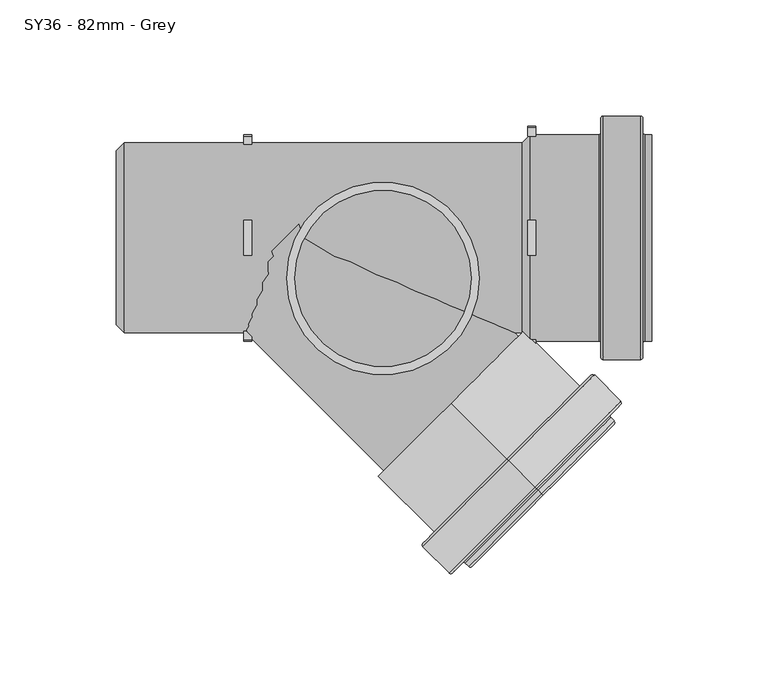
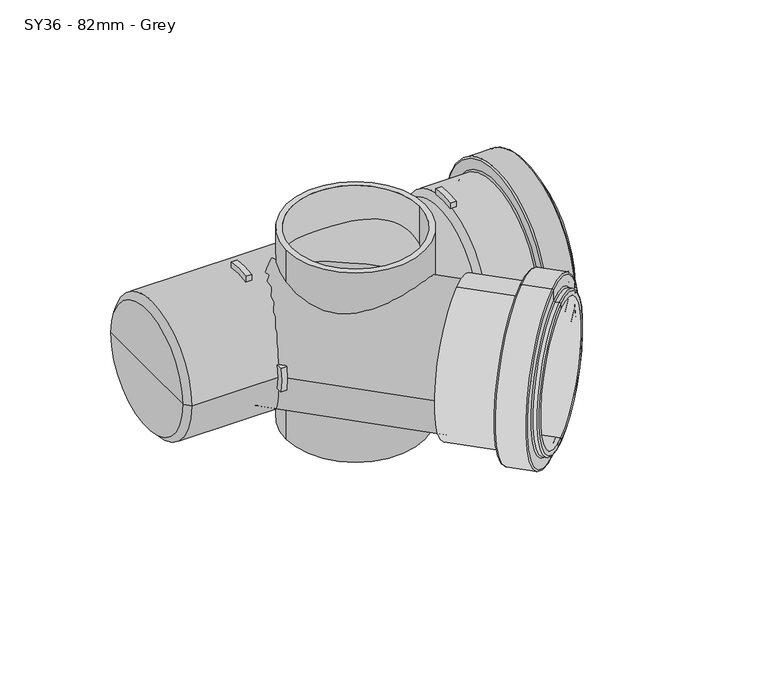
"""IFC4 building model written with IfcOpenShell, lengths in millimetres: pipe fitting geometry, MarleyPlumbingAndDrainage_PipeFitting_EqualBranch45PushFit_SY36 : SY36 - 82mm - Grey."""

from ifc_helpers import new_model, si_unit, point, frame, frame_2d, origin, origin_2d, place, context, project, spatial, polyline, circle_curve, ellipse_curve, trimmed, segment, composite_curve, outline, extrude, source, transform, mapped, element, save
from ifc_brep_helpers import plane_surface, cylinder_surface, revolved_surface, advanced_brep


def sy36_82mm_grey_5bc6de29(model_context):
    return source(origin(), model_context, "Body", "SolidModel", [
        advanced_brep(
        [(56.5924031, -71.4177849, -44.5), (56.5924031, -71.4177849, 44.5), (56.5924031, -71.4177849, 41.0), (56.5924031, -71.4177849, -41.0), (80.6340336, -95.4594155, -44.5), (80.6340336, -95.4594155, 44.5), (80.6340336, -95.4594155, -51.5), (80.6340336, -95.4594155, 51.5), (92.6548489, -107.4802307, -52.5), (92.6548489, -107.4802307, 52.5), (81.3411404, -96.1665222, 52.5), (81.3411404, -96.1665222, -52.5), (93.3619557, -108.1873375, -45.5), (93.3619557, -108.1873375, 45.5), (93.3619557, -108.1873375, 51.5), (93.3619557, -108.1873375, -51.5), (95.483276, -110.3086579, -44.5), (95.483276, -110.3086579, 44.5), (94.0690625, -108.8944443, 44.5), (94.0690625, -108.8944443, -44.5), (96.1903828, -111.0157646, -41.0), (96.1903828, -111.0157646, 41.0), (96.1903828, -111.0157646, 43.5), (96.1903828, -111.0157646, -43.5)],
        [
            (0, 1, circle_curve(frame((56.5924031, -71.4177849, 0.0), z_axis=(-0.7071067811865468, 0.7071067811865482, 0.0), x_axis=(0.0, 0.0, 1.0000000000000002)), 44.5)),
            (1, 2),
            (2, 3, circle_curve(frame((56.5924031, -71.4177849, 0.0), z_axis=(0.7071067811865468, -0.7071067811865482, 0.0), x_axis=(0.0, 0.0, 1.0000000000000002)), 41.0)),
            (3, 0),
            (1, 0, circle_curve(frame((56.5924031, -71.4177849, 0.0), z_axis=(-0.7071067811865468, 0.7071067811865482, 0.0), x_axis=(0.0, 0.0, 1.0000000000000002)), 44.5)),
            (3, 2, circle_curve(frame((56.5924031, -71.4177849, 0.0), z_axis=(0.7071067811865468, -0.7071067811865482, 0.0), x_axis=(0.0, 0.0, 1.0000000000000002)), 41.0)),
            (4, 5, circle_curve(frame((80.6340336, -95.4594155, 0.0), z_axis=(-0.7071067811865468, 0.7071067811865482, 0.0), x_axis=(0.0, 0.0, 1.0000000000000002)), 44.5)),
            (5, 1),
            (0, 4),
            (5, 4, circle_curve(frame((80.6340336, -95.4594155, 0.0), z_axis=(-0.7071067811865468, 0.7071067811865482, 0.0), x_axis=(0.0, 0.0, 1.0000000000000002)), 44.5)),
            (6, 7, circle_curve(frame((80.6340336, -95.4594155, 0.0), z_axis=(-0.7071067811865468, 0.7071067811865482, 0.0), x_axis=(0.0, 0.0, 1.0000000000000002)), 51.5)),
            (7, 5),
            (4, 6),
            (7, 6, circle_curve(frame((80.6340336, -95.4594155, 0.0), z_axis=(-0.7071067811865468, 0.7071067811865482, 0.0), x_axis=(0.0, 0.0, 1.0000000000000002)), 51.5)),
            (8, 9, circle_curve(frame((92.6548489, -107.4802307, 0.0), z_axis=(-0.7071067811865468, 0.7071067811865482, 0.0), x_axis=(0.0, 0.0, 1.0000000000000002)), 52.5)),
            (9, 10),
            (10, 11, circle_curve(frame((81.3411404, -96.1665222, 0.0), z_axis=(0.7071067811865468, -0.7071067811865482, 0.0), x_axis=(0.0, 0.0, 1.0000000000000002)), 52.5)),
            (11, 8),
            (9, 8, circle_curve(frame((92.6548489, -107.4802307, 0.0), z_axis=(-0.7071067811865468, 0.7071067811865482, 0.0), x_axis=(0.0, 0.0, 1.0000000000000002)), 52.5)),
            (11, 10, circle_curve(frame((81.3411404, -96.1665222, 0.0), z_axis=(0.7071067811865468, -0.7071067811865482, 0.0), x_axis=(0.0, 0.0, 1.0000000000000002)), 52.5)),
            (12, 13, circle_curve(frame((93.3619557, -108.1873375, 0.0), z_axis=(-0.7071067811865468, 0.7071067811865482, 0.0), x_axis=(0.0, 0.0, 1.0000000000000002)), 45.5)),
            (13, 14),
            (14, 15, circle_curve(frame((93.3619557, -108.1873375, 0.0), z_axis=(0.7071067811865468, -0.7071067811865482, 0.0), x_axis=(0.0, 0.0, 1.0000000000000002)), 51.5)),
            (15, 12),
            (13, 12, circle_curve(frame((93.3619557, -108.1873375, 0.0), z_axis=(-0.7071067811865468, 0.7071067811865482, 0.0), x_axis=(0.0, 0.0, 1.0000000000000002)), 45.5)),
            (15, 14, circle_curve(frame((93.3619557, -108.1873375, 0.0), z_axis=(0.7071067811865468, -0.7071067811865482, 0.0), x_axis=(0.0, 0.0, 1.0000000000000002)), 51.5)),
            (16, 17, circle_curve(frame((95.483276, -110.3086579, 0.0), z_axis=(-0.7071067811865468, 0.7071067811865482, 0.0), x_axis=(0.0, 0.0, 1.0000000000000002)), 44.5)),
            (17, 18),
            (18, 19, circle_curve(frame((94.0690625, -108.8944443, 0.0), z_axis=(0.7071067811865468, -0.7071067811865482, 0.0), x_axis=(0.0, 0.0, 1.0000000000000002)), 44.5)),
            (19, 16),
            (17, 16, circle_curve(frame((95.483276, -110.3086579, 0.0), z_axis=(-0.7071067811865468, 0.7071067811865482, 0.0), x_axis=(0.0, 0.0, 1.0000000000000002)), 44.5)),
            (19, 18, circle_curve(frame((94.0690625, -108.8944443, 0.0), z_axis=(0.7071067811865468, -0.7071067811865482, 0.0), x_axis=(0.0, 0.0, 1.0000000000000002)), 44.5)),
            (20, 21, circle_curve(frame((96.1903828, -111.0157646, 0.0), z_axis=(-0.7071067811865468, 0.7071067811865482, 0.0), x_axis=(0.0, 0.0, 1.0000000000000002)), 41.0)),
            (21, 22),
            (22, 23, circle_curve(frame((96.1903828, -111.0157646, 0.0), z_axis=(0.7071067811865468, -0.7071067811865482, 0.0), x_axis=(0.0, 0.0, 1.0000000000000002)), 43.5)),
            (23, 20),
            (21, 20, circle_curve(frame((96.1903828, -111.0157646, 0.0), z_axis=(-0.7071067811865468, 0.7071067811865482, 0.0), x_axis=(0.0, 0.0, 1.0000000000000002)), 41.0)),
            (23, 22, circle_curve(frame((96.1903828, -111.0157646, 0.0), z_axis=(0.7071067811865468, -0.7071067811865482, 0.0), x_axis=(0.0, 0.0, 1.0000000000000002)), 43.5)),
            (2, 21),
            (20, 3),
            (10, 7, circle_curve(frame((81.3411404, -96.1665222, 51.5), z_axis=(-0.7071067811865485, -0.707106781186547, 0.0), x_axis=(0.4999999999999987, -0.49999999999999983, 0.7071067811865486)), 1.0)),
            (6, 11, circle_curve(frame((81.3411404, -96.1665222, -51.5), z_axis=(-0.7071067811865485, -0.707106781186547, 0.0), x_axis=(0.5000000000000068, -0.5000000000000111, -0.707106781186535)), 1.0)),
            (14, 9, circle_curve(frame((92.6548489, -107.4802307, 51.5), z_axis=(-0.7071067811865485, -0.707106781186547, 0.0), x_axis=(0.4999999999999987, -0.49999999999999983, 0.7071067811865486)), 1.0)),
            (8, 15, circle_curve(frame((92.6548489, -107.4802307, -51.5), z_axis=(-0.7071067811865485, -0.707106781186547, 0.0), x_axis=(0.5000000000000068, -0.5000000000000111, -0.707106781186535)), 1.0)),
            (18, 13, circle_curve(frame((94.0690625, -108.8944443, 45.5), z_axis=(0.7071067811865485, 0.707106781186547, 0.0), x_axis=(0.4999999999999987, -0.49999999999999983, 0.7071067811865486)), 1.0)),
            (12, 19, circle_curve(frame((94.0690625, -108.8944443, -45.5), z_axis=(0.7071067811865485, 0.707106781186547, 0.0), x_axis=(0.5000000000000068, -0.5000000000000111, -0.707106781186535)), 1.0)),
            (22, 17, circle_curve(frame((95.483276, -110.3086579, 43.5), z_axis=(-0.7071067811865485, -0.707106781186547, 0.0), x_axis=(0.4999999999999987, -0.49999999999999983, 0.7071067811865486)), 1.0)),
            (16, 23, circle_curve(frame((95.483276, -110.3086579, -43.5), z_axis=(-0.7071067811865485, -0.707106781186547, 0.0), x_axis=(0.5000000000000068, -0.5000000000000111, -0.707106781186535)), 1.0)),
        ],
        [
            plane_surface(frame((56.5924031, -71.4177849, 0.0), z_axis=(-0.7071067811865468, 0.7071067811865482, 0.0), x_axis=(0.0, 0.0, 1.0))),
            cylinder_surface(frame((120.9391202, -135.764502, 0.0), z_axis=(0.7071067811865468, -0.7071067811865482, 0.0), x_axis=(0.0, 0.0, 1.0000000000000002)), 44.5),
            plane_surface(frame((80.6340336, -95.4594155, 0.0), z_axis=(-0.7071067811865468, 0.7071067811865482, 0.0), x_axis=(0.0, 0.0, 1.0))),
            cylinder_surface(frame((120.9391202, -135.764502, 0.0), z_axis=(0.7071067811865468, -0.7071067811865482, 0.0), x_axis=(0.0, 0.0, 1.0000000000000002)), 52.5),
            plane_surface(frame((93.3619557, -108.1873375, 0.0), z_axis=(0.7071067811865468, -0.7071067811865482, 0.0), x_axis=(0.0, 0.0, 1.0))),
            plane_surface(frame((96.1903828, -111.0157646, 0.0), z_axis=(0.7071067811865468, -0.7071067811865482, 0.0), x_axis=(0.0, 0.0, 1.0))),
            revolved_surface(polyline([(96.19038280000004, -111.01576459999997, 41.00000000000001), (56.59240310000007, -71.41778489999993, 41.00000000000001)]), (120.9391202, -135.764502, 0.0), (0.7071067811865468, -0.7071067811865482, 0.0)),
            revolved_surface(trimmed(ellipse_curve(frame((81.3411404, -96.1665222, 51.5), z_axis=(0.7071067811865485, 0.707106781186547, 0.0), x_axis=(0.4999999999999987, -0.49999999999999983, 0.7071067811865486)), 1.0, 1.0), [point((80.6340336, -95.4594155, 51.5))], [point((81.3411404, -96.1665222, 52.5))], True, "CARTESIAN"), (120.9391202, -135.764502, 0.0), (0.7071067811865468, -0.7071067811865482, 0.0)),
            revolved_surface(trimmed(ellipse_curve(frame((81.3411404, -96.1665222, 51.5), z_axis=(0.7071067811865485, 0.707106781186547, 0.0), x_axis=(0.4999999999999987, -0.49999999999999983, 0.7071067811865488)), 1.0, 1.0), [point((80.6340336, -95.4594155, 51.5))], [point((81.3411404, -96.1665222, 52.5))], True, "CARTESIAN"), (120.9391202, -135.764502, 0.0), (0.7071067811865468, -0.7071067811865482, 0.0)),
            revolved_surface(trimmed(ellipse_curve(frame((92.6548489, -107.4802307, 51.5), z_axis=(0.7071067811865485, 0.707106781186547, 0.0), x_axis=(0.4999999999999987, -0.49999999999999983, 0.7071067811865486)), 1.0, 1.0), [point((92.6548489, -107.4802307, 52.5))], [point((93.3619557, -108.1873375, 51.5))], True, "CARTESIAN"), (120.9391202, -135.764502, 0.0), (0.7071067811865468, -0.7071067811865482, 0.0)),
            revolved_surface(trimmed(ellipse_curve(frame((92.6548489, -107.4802307, 51.5), z_axis=(0.7071067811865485, 0.707106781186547, 0.0), x_axis=(0.4999999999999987, -0.49999999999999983, 0.7071067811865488)), 1.0, 1.0), [point((92.6548489, -107.4802307, 52.5))], [point((93.3619557, -108.1873375, 51.5))], True, "CARTESIAN"), (120.9391202, -135.764502, 0.0), (0.7071067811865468, -0.7071067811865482, 0.0)),
            revolved_surface(trimmed(ellipse_curve(frame((94.0690625, -108.8944443, 45.5), z_axis=(-0.7071067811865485, -0.707106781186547, 0.0), x_axis=(0.4999999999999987, -0.49999999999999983, 0.7071067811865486)), 1.0, 1.0), [point((93.3619557, -108.1873375, 45.5))], [point((94.0690625, -108.8944443, 44.5))], True, "CARTESIAN"), (120.9391202, -135.764502, 0.0), (0.7071067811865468, -0.7071067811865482, 0.0)),
            revolved_surface(trimmed(ellipse_curve(frame((94.0690625, -108.8944443, 45.5), z_axis=(-0.7071067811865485, -0.707106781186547, 0.0), x_axis=(0.4999999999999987, -0.49999999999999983, 0.7071067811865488)), 1.0, 1.0), [point((93.3619557, -108.1873375, 45.5))], [point((94.0690625, -108.8944443, 44.5))], True, "CARTESIAN"), (120.9391202, -135.764502, 0.0), (0.7071067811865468, -0.7071067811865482, 0.0)),
            revolved_surface(trimmed(ellipse_curve(frame((95.483276, -110.3086579, 43.5), z_axis=(0.7071067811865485, 0.707106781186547, 0.0), x_axis=(0.4999999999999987, -0.49999999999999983, 0.7071067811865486)), 1.0, 1.0), [point((95.483276, -110.3086579, 44.5))], [point((96.1903828, -111.0157646, 43.5))], True, "CARTESIAN"), (120.9391202, -135.764502, 0.0), (0.7071067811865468, -0.7071067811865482, 0.0)),
            revolved_surface(trimmed(ellipse_curve(frame((95.483276, -110.3086579, 43.5), z_axis=(0.7071067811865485, 0.707106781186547, 0.0), x_axis=(0.4999999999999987, -0.49999999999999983, 0.7071067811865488)), 1.0, 1.0), [point((95.483276, -110.3086579, 44.5))], [point((96.1903828, -111.0157646, 43.5))], True, "CARTESIAN"), (120.9391202, -135.764502, 0.0), (0.7071067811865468, -0.7071067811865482, 0.0)),
        ],
        [
            (0, [[1, 2, 3, 4]]),
            (0, [[5, -4, 6, -2]]),
            (1, [[7, 8, -1, 9]]),
            (1, [[10, -9, -5, -8]]),
            (2, [[11, 12, -7, 13]]),
            (2, [[14, -13, -10, -12]]),
            (3, [[15, 16, 17, 18]]),
            (3, [[19, -18, 20, -16]]),
            (4, [[21, 22, 23, 24]]),
            (4, [[25, -24, 26, -22]]),
            (1, [[27, 28, 29, 30]]),
            (1, [[31, -30, 32, -28]]),
            (5, [[33, 34, 35, 36]]),
            (5, [[37, -36, 38, -34]]),
            (6, [[-3, 39, -33, 40]]),
            (6, [[-6, -40, -37, -39]]),
            (7, [[-17, 41, -11, 42]]),
            (8, [[-20, -42, -14, -41]]),
            (9, [[-23, 43, -15, 44]]),
            (10, [[-26, -44, -19, -43]]),
            (11, [[-29, 45, -21, 46]]),
            (12, [[-32, -46, -25, -45]]),
            (13, [[-35, 47, -27, 48]]),
            (14, [[-38, -48, -31, -47]]),
        ],
    ),
        extrude(outline(composite_curve([segment(trimmed(circle_curve(origin_2d(), 41.0), [point((0.0, -41.0))], [point((0.0, 41.0))], False, "CARTESIAN"), True, "CONTINUOUS"), segment(trimmed(circle_curve(origin_2d(), 41.0), [point((0.0, 41.0))], [point((0.0, -41.0))], False, "CARTESIAN"), True, "CONTINUOUS")], self_intersect=False)), frame((56.5924031, -71.4177849, 0.0), z_axis=(-0.7071067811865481, 0.7071067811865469, 0.0), x_axis=(0.0, 0.0, 1.0)), (0.0, 0.0, 1.0), 101.0),
        extrude(outline(composite_curve([segment(trimmed(circle_curve(frame_2d((27.1746182, -17.5)), 41.5), [point((-14.3253818, -17.5))], [point((68.6746182, -17.5))], False, "CARTESIAN"), True, "CONTINUOUS"), segment(trimmed(circle_curve(frame_2d((27.1746182, -17.5)), 41.5), [point((68.6746182, -17.5))], [point((-14.3253818, -17.5))], False, "CARTESIAN"), True, "CONTINUOUS")], self_intersect=False), holes=[composite_curve([segment(trimmed(circle_curve(frame_2d((27.1746182, -17.5)), 38.0), [point((-10.8253818, -17.5))], [point((65.1746182, -17.5))], True, "CARTESIAN"), True, "CONTINUOUS"), segment(trimmed(circle_curve(frame_2d((27.1746182, -17.5)), 38.0), [point((65.1746182, -17.5))], [point((-10.8253818, -17.5))], True, "CARTESIAN"), True, "CONTINUOUS")], self_intersect=False)]), frame((0.0, 0.0, -60.0), z_axis=(0.0, 0.0, 1.0), x_axis=(1.0, 0.0, 0.0)), (0.0, 0.0, 1.0), 120.0),
        extrude(outline(composite_curve([segment(trimmed(circle_curve(origin_2d(), 48.0), [point((7.5, -47.4104419))], [point((-7.5, -47.4104419))], False, "CARTESIAN"), True, "CONTINUOUS"), segment(polyline([(-7.5, -47.4104419), (-7.5, -43.8634244)]), True, "CONTINUOUS"), segment(trimmed(circle_curve(origin_2d(), 44.5), [point((-7.5, -43.8634244))], [point((7.5, -43.8634244))], True, "CARTESIAN"), True, "CONTINUOUS"), segment(polyline([(7.5, -43.8634244), (7.5, -47.4104419)]), True, "CONTINUOUS")], self_intersect=False)), frame((89.6746182, 0.0, 0.0), z_axis=(1.0, 0.0, 0.0), x_axis=(0.0, 1.0, 0.0)), (0.0, 0.0, 1.0), 3.5),
        extrude(outline(composite_curve([segment(polyline([(-7.5, 43.8634244), (-7.5, 47.4104419)]), True, "CONTINUOUS"), segment(trimmed(circle_curve(origin_2d(), 48.0), [point((-7.5, 47.4104419))], [point((7.5, 47.4104419))], False, "CARTESIAN"), True, "CONTINUOUS"), segment(polyline([(7.5, 47.4104419), (7.5, 43.8634244)]), True, "CONTINUOUS"), segment(trimmed(circle_curve(origin_2d(), 44.5), [point((7.5, 43.8634244))], [point((-7.5, 43.8634244))], True, "CARTESIAN"), True, "CONTINUOUS")], self_intersect=False)), frame((89.6746182, 0.0, 0.0), z_axis=(1.0, 0.0, 0.0), x_axis=(0.0, 1.0, 0.0)), (0.0, 0.0, 1.0), 3.5),
        extrude(outline(composite_curve([segment(polyline([(43.8634244, 7.5), (47.4104419, 7.5)]), True, "CONTINUOUS"), segment(trimmed(circle_curve(origin_2d(), 48.0), [point((47.4104419, 7.5))], [point((47.4104419, -7.5))], False, "CARTESIAN"), True, "CONTINUOUS"), segment(polyline([(47.4104419, -7.5), (43.8634244, -7.5)]), True, "CONTINUOUS"), segment(trimmed(circle_curve(origin_2d(), 44.5), [point((43.8634244, -7.5))], [point((43.8634244, 7.5))], True, "CARTESIAN"), True, "CONTINUOUS")], self_intersect=False)), frame((89.6746182, 0.0, 0.0), z_axis=(1.0, 0.0, 0.0), x_axis=(0.0, 1.0, 0.0)), (0.0, 0.0, 1.0), 3.5),
        extrude(outline(composite_curve([segment(trimmed(circle_curve(origin_2d(), 48.0), [point((-47.4104419, -7.5))], [point((-47.4104419, 7.5))], False, "CARTESIAN"), True, "CONTINUOUS"), segment(polyline([(-47.4104419, 7.5), (-43.8634244, 7.5)]), True, "CONTINUOUS"), segment(trimmed(circle_curve(origin_2d(), 44.5), [point((-43.8634244, 7.5))], [point((-43.8634244, -7.5))], True, "CARTESIAN"), True, "CONTINUOUS"), segment(polyline([(-43.8634244, -7.5), (-47.4104419, -7.5)]), True, "CONTINUOUS")], self_intersect=False)), frame((89.6746182, 0.0, 0.0), z_axis=(1.0, 0.0, 0.0), x_axis=(0.0, 1.0, 0.0)), (0.0, 0.0, 1.0), 3.5),
        extrude(outline(composite_curve([segment(polyline([(-7.5, 40.3081878), (-7.5, 43.8634244)]), True, "CONTINUOUS"), segment(trimmed(circle_curve(origin_2d(), 44.5), [point((-7.5, 43.8634244))], [point((7.5, 43.8634244))], False, "CARTESIAN"), True, "CONTINUOUS"), segment(polyline([(7.5, 43.8634244), (7.5, 40.3081878)]), True, "CONTINUOUS"), segment(trimmed(circle_curve(origin_2d(), 41.0), [point((7.5, 40.3081878))], [point((-7.5, 40.3081878))], True, "CARTESIAN"), True, "CONTINUOUS")], self_intersect=False)), frame((-32.8253818, 0.0, 0.0), z_axis=(1.0, 0.0, 0.0), x_axis=(0.0, 1.0, 0.0)), (0.0, 0.0, 1.0), 3.5),
        extrude(outline(composite_curve([segment(trimmed(circle_curve(origin_2d(), 41.0), [point((-40.3081878, 7.5))], [point((-40.3081878, -7.5))], True, "CARTESIAN"), True, "CONTINUOUS"), segment(polyline([(-40.3081878, -7.5), (-43.8634244, -7.5)]), True, "CONTINUOUS"), segment(trimmed(circle_curve(origin_2d(), 44.5), [point((-43.8634244, -7.5))], [point((-43.8634244, 7.5))], False, "CARTESIAN"), True, "CONTINUOUS"), segment(polyline([(-43.8634244, 7.5), (-40.3081878, 7.5)]), True, "CONTINUOUS")], self_intersect=False)), frame((-32.8253818, 0.0, 0.0), z_axis=(1.0, 0.0, 0.0), x_axis=(0.0, 1.0, 0.0)), (0.0, 0.0, 1.0), 3.5),
        extrude(outline(composite_curve([segment(trimmed(circle_curve(origin_2d(), 44.5), [point((7.5, -43.8634244))], [point((-7.5, -43.8634244))], False, "CARTESIAN"), True, "CONTINUOUS"), segment(polyline([(-7.5, -43.8634244), (-7.5, -40.3081878)]), True, "CONTINUOUS"), segment(trimmed(circle_curve(origin_2d(), 41.0), [point((-7.5, -40.3081878))], [point((7.5, -40.3081878))], True, "CARTESIAN"), True, "CONTINUOUS"), segment(polyline([(7.5, -40.3081878), (7.5, -43.8634244)]), True, "CONTINUOUS")], self_intersect=False)), frame((-32.8253818, 0.0, 0.0), z_axis=(1.0, 0.0, 0.0), x_axis=(0.0, 1.0, 0.0)), (0.0, 0.0, 1.0), 3.5),
        extrude(outline(composite_curve([segment(trimmed(circle_curve(origin_2d(), 44.5), [point((43.8634244, 7.5))], [point((43.8634244, -7.5))], False, "CARTESIAN"), True, "CONTINUOUS"), segment(polyline([(43.8634244, -7.5), (40.3081878, -7.5)]), True, "CONTINUOUS"), segment(trimmed(circle_curve(origin_2d(), 41.0), [point((40.3081878, -7.5))], [point((40.3081878, 7.5))], True, "CARTESIAN"), True, "CONTINUOUS"), segment(polyline([(40.3081878, 7.5), (43.8634244, 7.5)]), True, "CONTINUOUS")], self_intersect=False)), frame((-32.8253818, 0.0, 0.0), z_axis=(1.0, 0.0, 0.0), x_axis=(0.0, 1.0, 0.0)), (0.0, 0.0, 1.0), 3.5),
        advanced_brep(
        [(140.1746182, -44.5, 0.0), (140.1746182, 44.5, 0.0), (143.1746182, 44.5, 0.0), (143.1746182, -44.5, 0.0), (139.1746182, -51.5, 0.0), (139.1746182, 51.5, 0.0), (139.1746182, 45.5, 0.0), (139.1746182, -45.5, 0.0), (122.1746182, -52.5, 0.0), (122.1746182, 52.5, 0.0), (138.1746182, 52.5, 0.0), (138.1746182, -52.5, 0.0), (121.1746182, -45.5, 0.0), (121.1746182, 45.5, 0.0), (121.1746182, 51.5, 0.0), (121.1746182, -51.5, 0.0), (90.6746182, -44.5, 0.0), (90.6746182, 44.5, 0.0), (120.1746182, 44.5, 0.0), (120.1746182, -44.5, 0.0), (87.1746182, -41.0, 0.0), (87.1746182, 41.0, 0.0), (-84.3253818, -41.0, 0.0), (-84.3253818, 41.0, 0.0), (-87.8253818, -37.5, 0.0), (-87.8253818, 37.5, 0.0), (-87.8253818, 0.0, 0.0), (90.6746182, -41.0, 0.0), (90.6746182, 41.0, 0.0), (90.6746182, 0.0, 0.0), (143.1746182, -41.0, 0.0), (143.1746182, 41.0, 0.0)],
        [
            (0, 1, circle_curve(frame((140.1746182, 0.0, 0.0), z_axis=(1.0, 0.0, 0.0), x_axis=(0.0, 1.0, 0.0)), 44.5)),
            (1, 2),
            (2, 3, circle_curve(frame((143.1746182, 0.0, 0.0), z_axis=(-1.0, 0.0, 0.0), x_axis=(0.0, 1.0, 0.0)), 44.5)),
            (3, 0),
            (1, 0, circle_curve(frame((140.1746182, 0.0, 0.0), z_axis=(1.0, 0.0, 0.0), x_axis=(0.0, 1.0, 0.0)), 44.5)),
            (3, 2, circle_curve(frame((143.1746182, 0.0, 0.0), z_axis=(-1.0, 0.0, 0.0), x_axis=(0.0, 1.0, 0.0)), 44.5)),
            (4, 5, circle_curve(frame((139.1746182, 0.0, 0.0), z_axis=(1.0, 0.0, 0.0), x_axis=(0.0, 1.0, 0.0)), 51.5)),
            (5, 6),
            (6, 7, circle_curve(frame((139.1746182, 0.0, 0.0), z_axis=(-1.0, 0.0, 0.0), x_axis=(0.0, 1.0, 0.0)), 45.5)),
            (7, 4),
            (5, 4, circle_curve(frame((139.1746182, 0.0, 0.0), z_axis=(1.0, 0.0, 0.0), x_axis=(0.0, 1.0, 0.0)), 51.5)),
            (7, 6, circle_curve(frame((139.1746182, 0.0, 0.0), z_axis=(-1.0, 0.0, 0.0), x_axis=(0.0, 1.0, 0.0)), 45.5)),
            (8, 9, circle_curve(frame((122.1746182, 0.0, 0.0), z_axis=(1.0, 0.0, 0.0), x_axis=(0.0, 1.0, 0.0)), 52.5)),
            (9, 10),
            (10, 11, circle_curve(frame((138.1746182, 0.0, 0.0), z_axis=(-1.0, 0.0, 0.0), x_axis=(0.0, 1.0, 0.0)), 52.5)),
            (11, 8),
            (9, 8, circle_curve(frame((122.1746182, 0.0, 0.0), z_axis=(1.0, 0.0, 0.0), x_axis=(0.0, 1.0, 0.0)), 52.5)),
            (11, 10, circle_curve(frame((138.1746182, 0.0, 0.0), z_axis=(-1.0, 0.0, 0.0), x_axis=(0.0, 1.0, 0.0)), 52.5)),
            (12, 13, circle_curve(frame((121.1746182, 0.0, 0.0), z_axis=(1.0, 0.0, 0.0), x_axis=(0.0, 1.0, 0.0)), 45.5)),
            (13, 14),
            (14, 15, circle_curve(frame((121.1746182, 0.0, 0.0), z_axis=(-1.0, 0.0, 0.0), x_axis=(0.0, 1.0, 0.0)), 51.5)),
            (15, 12),
            (13, 12, circle_curve(frame((121.1746182, 0.0, 0.0), z_axis=(1.0, 0.0, 0.0), x_axis=(0.0, 1.0, 0.0)), 45.5)),
            (15, 14, circle_curve(frame((121.1746182, 0.0, 0.0), z_axis=(-1.0, 0.0, 0.0), x_axis=(0.0, 1.0, 0.0)), 51.5)),
            (16, 17, circle_curve(frame((90.6746182, 0.0, 0.0), z_axis=(1.0, 0.0, 0.0), x_axis=(0.0, 1.0, 0.0)), 44.5)),
            (17, 18),
            (18, 19, circle_curve(frame((120.1746182, 0.0, 0.0), z_axis=(-1.0, 0.0, 0.0), x_axis=(0.0, 1.0, 0.0)), 44.5)),
            (19, 16),
            (17, 16, circle_curve(frame((90.6746182, 0.0, 0.0), z_axis=(1.0, 0.0, 0.0), x_axis=(0.0, 1.0, 0.0)), 44.5)),
            (19, 18, circle_curve(frame((120.1746182, 0.0, 0.0), z_axis=(-1.0, 0.0, 0.0), x_axis=(0.0, 1.0, 0.0)), 44.5)),
            (20, 21, circle_curve(frame((87.1746182, 0.0, 0.0), z_axis=(1.0, 0.0, 0.0), x_axis=(0.0, 1.0, 0.0)), 41.0)),
            (21, 17),
            (16, 20),
            (21, 20, circle_curve(frame((87.1746182, 0.0, 0.0), z_axis=(1.0, 0.0, 0.0), x_axis=(0.0, 1.0, 0.0)), 41.0)),
            (22, 23, circle_curve(frame((-84.3253818, 0.0, 0.0), z_axis=(1.0, 0.0, 0.0), x_axis=(0.0, 1.0, 0.0)), 41.0)),
            (23, 21),
            (20, 22),
            (23, 22, circle_curve(frame((-84.3253818, 0.0, 0.0), z_axis=(1.0, 0.0, 0.0), x_axis=(0.0, 1.0, 0.0)), 41.0)),
            (24, 25, circle_curve(frame((-87.8253818, 0.0, 0.0), z_axis=(1.0, 0.0, 0.0), x_axis=(0.0, 1.0, 0.0)), 37.5)),
            (25, 23),
            (22, 24),
            (25, 24, circle_curve(frame((-87.8253818, 0.0, 0.0), z_axis=(1.0, 0.0, 0.0), x_axis=(0.0, 1.0, 0.0)), 37.5)),
            (26, 25),
            (24, 26),
            (27, 28, circle_curve(frame((90.6746182, 0.0, 0.0), z_axis=(1.0, 0.0, 0.0), x_axis=(0.0, 1.0, 0.0)), 41.0)),
            (28, 29),
            (29, 27),
            (28, 27, circle_curve(frame((90.6746182, 0.0, 0.0), z_axis=(1.0, 0.0, 0.0), x_axis=(0.0, 1.0, 0.0)), 41.0)),
            (30, 31, circle_curve(frame((143.1746182, 0.0, 0.0), z_axis=(1.0, 0.0, 0.0), x_axis=(0.0, 1.0, 0.0)), 41.0)),
            (31, 28),
            (27, 30),
            (31, 30, circle_curve(frame((143.1746182, 0.0, 0.0), z_axis=(1.0, 0.0, 0.0), x_axis=(0.0, 1.0, 0.0)), 41.0)),
            (2, 31),
            (30, 3),
            (6, 1, circle_curve(frame((140.1746182, 45.5, 0.0), z_axis=(0.0, 0.0, 1.0), x_axis=(1.0, 0.0, 0.0)), 1.0)),
            (0, 7, circle_curve(frame((140.1746182, -45.5, 0.0), z_axis=(0.0, 0.0, 1.0), x_axis=(1.0, 0.0, 0.0)), 1.0)),
            (10, 5, circle_curve(frame((138.1746182, 51.5, 0.0), z_axis=(0.0, 0.0, -1.0), x_axis=(1.0, 0.0, 0.0)), 1.0)),
            (4, 11, circle_curve(frame((138.1746182, -51.5, 0.0), z_axis=(0.0, 0.0, -1.0), x_axis=(1.0, 0.0, 0.0)), 1.0)),
            (14, 9, circle_curve(frame((122.1746182, 51.5, 0.0), z_axis=(0.0, 0.0, -1.0), x_axis=(1.0, 0.0, 0.0)), 1.0)),
            (8, 15, circle_curve(frame((122.1746182, -51.5, 0.0), z_axis=(0.0, 0.0, -1.0), x_axis=(1.0, 0.0, 0.0)), 1.0)),
            (18, 13, circle_curve(frame((120.1746182, 45.5, 0.0), z_axis=(0.0, 0.0, 1.0), x_axis=(1.0, 0.0, 0.0)), 1.0)),
            (12, 19, circle_curve(frame((120.1746182, -45.5, 0.0), z_axis=(0.0, 0.0, 1.0), x_axis=(1.0, 0.0, 0.0)), 1.0)),
        ],
        [
            cylinder_surface(frame((1957.0, 0.0, 0.0), z_axis=(-1.0, 0.0, 0.0), x_axis=(0.0, 1.0, 0.0)), 44.5),
            plane_surface(frame((139.1746182, 0.0, 0.0), z_axis=(1.0, 0.0, 0.0), x_axis=(0.0, 1.0, 0.0))),
            cylinder_surface(frame((1957.0, 0.0, 0.0), z_axis=(-1.0, 0.0, 0.0), x_axis=(0.0, 1.0, 0.0)), 52.5),
            plane_surface(frame((121.1746182, 0.0, 0.0), z_axis=(-1.0, 0.0, 0.0), x_axis=(0.0, 1.0, 0.0))),
            revolved_surface(polyline([(90.6746182, 44.5, 0.0), (87.1746182, 41.0, 0.0)]), (1957.0, 0.0, 0.0), (-1.0, 0.0, 0.0)),
            cylinder_surface(frame((1957.0, 0.0, 0.0), z_axis=(-1.0, 0.0, 0.0), x_axis=(0.0, 1.0, 0.0)), 41.0),
            revolved_surface(polyline([(-84.3253818, 41.0, 0.0), (-87.8253818, 37.5, 0.0)]), (1957.0, 0.0, 0.0), (-1.0, 0.0, 0.0)),
            plane_surface(frame((-87.8253818, 0.0, 0.0), z_axis=(-1.0, 0.0, 0.0), x_axis=(0.0, 1.0, 0.0))),
            plane_surface(frame((90.6746182, 0.0, 0.0), z_axis=(1.0, 0.0, 0.0), x_axis=(0.0, 1.0, 0.0))),
            revolved_surface(polyline([(90.67461819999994, 41.0, 0.0), (143.17461819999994, 41.0, 0.0)]), (1957.0, 0.0, 0.0), (-1.0, 0.0, 0.0)),
            plane_surface(frame((143.1746182, 0.0, 0.0), z_axis=(1.0, 0.0, 0.0), x_axis=(0.0, 1.0, 0.0))),
            revolved_surface(trimmed(ellipse_curve(frame((140.1746182, 45.5, 0.0), z_axis=(0.0, 0.0, -1.0), x_axis=(1.0, 0.0, 0.0)), 1.0, 1.0), [point((140.1746182, 44.5, 0.0))], [point((139.1746182, 45.5, 0.0))], True, "CARTESIAN"), (1957.0, 0.0, 0.0), (-1.0, 0.0, 0.0)),
            revolved_surface(trimmed(ellipse_curve(frame((138.1746182, 51.5, 0.0), z_axis=(0.0, 0.0, 1.0), x_axis=(1.0, 0.0, 0.0)), 1.0, 1.0), [point((139.1746182, 51.5, 0.0))], [point((138.1746182, 52.5, 0.0))], True, "CARTESIAN"), (1957.0, 0.0, 0.0), (-1.0, 0.0, 0.0)),
            revolved_surface(trimmed(ellipse_curve(frame((122.1746182, 51.5, 0.0), z_axis=(0.0, 0.0, 1.0), x_axis=(1.0, 0.0, 0.0)), 1.0, 1.0), [point((122.1746182, 52.5, 0.0))], [point((121.1746182, 51.5, 0.0))], True, "CARTESIAN"), (1957.0, 0.0, 0.0), (-1.0, 0.0, 0.0)),
            revolved_surface(trimmed(ellipse_curve(frame((120.1746182, 45.5, 0.0), z_axis=(0.0, 0.0, -1.0), x_axis=(1.0, 0.0, 0.0)), 1.0, 1.0), [point((121.1746182, 45.5, 0.0))], [point((120.1746182, 44.5, 0.0))], True, "CARTESIAN"), (1957.0, 0.0, 0.0), (-1.0, 0.0, 0.0)),
        ],
        [
            (0, [[1, 2, 3, 4]]),
            (0, [[5, -4, 6, -2]]),
            (1, [[7, 8, 9, 10]]),
            (1, [[11, -10, 12, -8]]),
            (2, [[13, 14, 15, 16]]),
            (2, [[17, -16, 18, -14]]),
            (3, [[19, 20, 21, 22]]),
            (3, [[23, -22, 24, -20]]),
            (0, [[25, 26, 27, 28]]),
            (0, [[29, -28, 30, -26]]),
            (4, [[31, 32, -25, 33]]),
            (4, [[34, -33, -29, -32]]),
            (5, [[35, 36, -31, 37]]),
            (5, [[38, -37, -34, -36]]),
            (6, [[39, 40, -35, 41]]),
            (6, [[42, -41, -38, -40]]),
            (7, [[43, -39, 44]]),
            (7, [[-44, -42, -43]]),
            (8, [[45, 46, 47]]),
            (8, [[48, -47, -46]]),
            (9, [[49, 50, -45, 51]]),
            (9, [[52, -51, -48, -50]]),
            (10, [[-3, 53, -49, 54]]),
            (10, [[-6, -54, -52, -53]]),
            (11, [[-9, 55, -1, 56]]),
            (11, [[-12, -56, -5, -55]]),
            (12, [[-15, 57, -7, 58]]),
            (12, [[-18, -58, -11, -57]]),
            (13, [[-21, 59, -13, 60]]),
            (13, [[-24, -60, -17, -59]]),
            (14, [[-27, 61, -19, 62]]),
            (14, [[-30, -62, -23, -61]]),
        ],
    ),
    ])


if __name__ == "__main__":
    model = new_model("IFC4")
    model_context = context("Model", 3, world=origin())
    ifc_project = project(units=[si_unit("LENGTHUNIT", "METRE", prefix="MILLI")], contexts=[model_context])
    site = spatial("IfcSite", under=ifc_project)
    building = spatial("IfcBuilding", under=site)
    placement = place(None, origin())
    sy36_82mm_grey_shape = sy36_82mm_grey_5bc6de29(model_context)
    element("IfcPipeFitting", 1, ObjectType="MarleyPlumbingAndDrainage_PipeFitting_EqualBranch45PushFit_SY36 : SY36 - 82mm - Grey", at=placement, inside=building, context=model_context, shape_type="MappedRepresentation", body=[
        mapped(sy36_82mm_grey_shape, transform((0.0, 0.0, 0.0), x_axis=(1.0, 0.0, 0.0), y_axis=(0.0, 1.0, 0.0), z_axis=(0.0, 0.0, 1.0))),
    ])
    save(model, "model.ifc")
